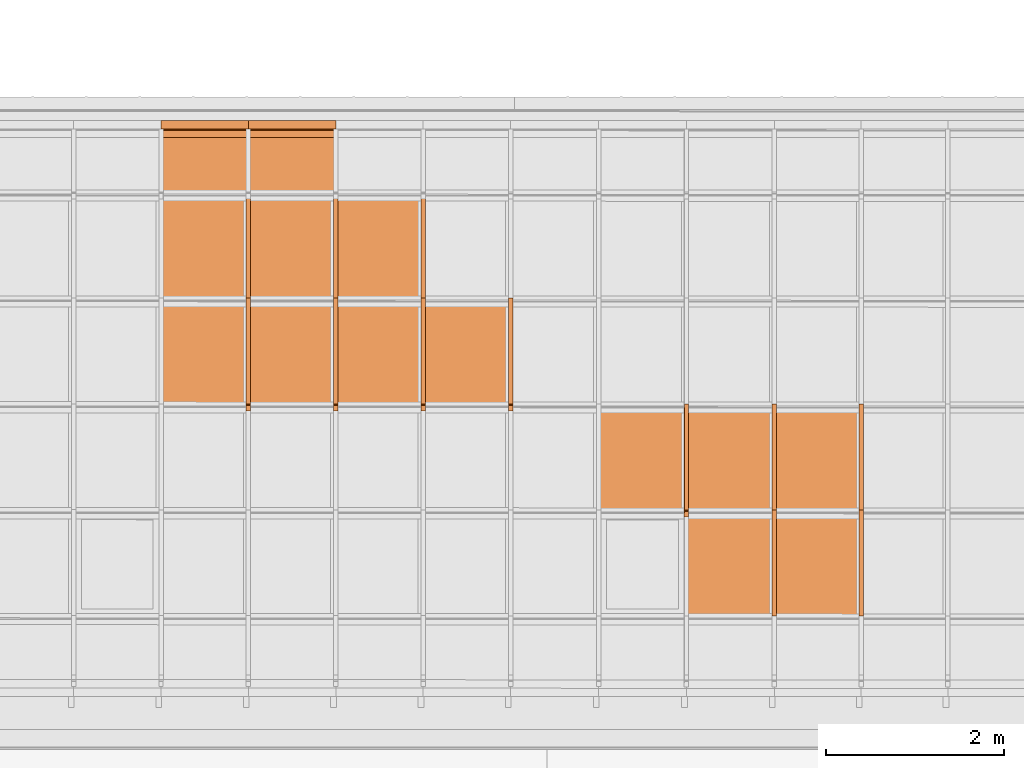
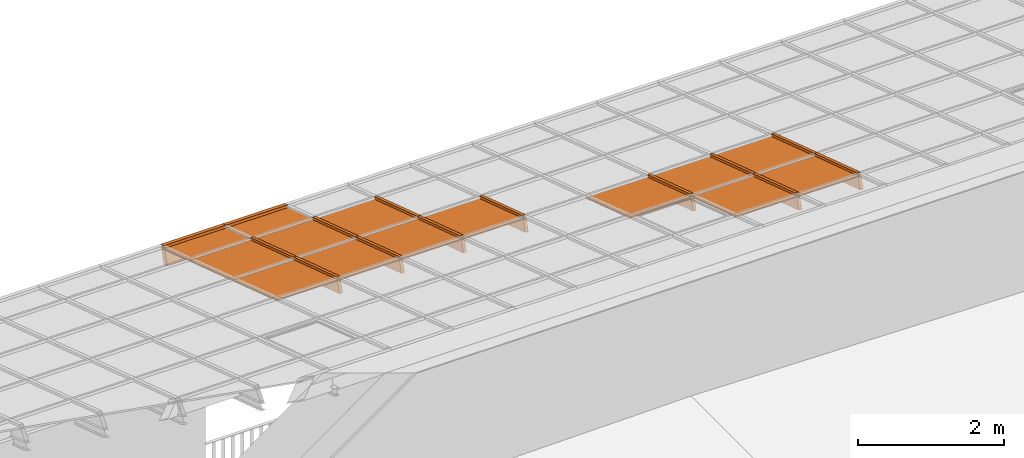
# One storey, part 35 of 47: 28 proxies, 1 element without a shape of its own.
"""IFC2X3 building model written with IfcOpenShell, lengths in millimetres."""

from ifc_helpers import new_model, entity, si_unit, converted_unit, derived_unit, money_unit, direction, frame, origin_with_axes, place, context, subcontext, project, spatial, polyline, outline, extrude, material, material_list, type_object, element, aggregate, save


model = new_model("IFC2X3")

# Units and contexts
model_context = context("Model", 3, precision=1e-05, world=origin_with_axes(), true_north=direction((0.0, 1.0)))
body_context = subcontext(model_context, "Body", "Model", "MODEL_VIEW")
ifc_project = project(units=[si_unit("LENGTHUNIT", "METRE", prefix="MILLI"), si_unit("AREAUNIT", "SQUARE_METRE"), si_unit("VOLUMEUNIT", "CUBIC_METRE"), converted_unit("PLANEANGLEUNIT", "DEGREE", entity("IfcPlaneAngleMeasure", 0.0174532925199), si_unit("PLANEANGLEUNIT", "RADIAN"), dimensions=[0, 0, 0, 0, 0, 0, 0]), si_unit("SOLIDANGLEUNIT", "STERADIAN"), money_unit("EUR"), converted_unit("TIMEUNIT", "Year", entity("IfcTimeMeasure", 31556926.0), si_unit("TIMEUNIT", "SECOND"), dimensions=[0, 0, 1, 0, 0, 0, 0]), si_unit("MASSUNIT", "GRAM", prefix="KILO"), si_unit("THERMODYNAMICTEMPERATUREUNIT", "DEGREE_CELSIUS"), si_unit("LUMINOUSINTENSITYUNIT", "LUMEN"), si_unit("ENERGYUNIT", "JOULE", prefix="MEGA"), derived_unit("THERMALCONDUCTANCEUNIT", [(si_unit("POWERUNIT", "WATT"), 1), (si_unit("LENGTHUNIT", "METRE"), -1), (si_unit("THERMODYNAMICTEMPERATUREUNIT", "KELVIN"), -1)]), derived_unit("SPECIFICHEATCAPACITYUNIT", [(si_unit("ENERGYUNIT", "JOULE"), 1), (si_unit("MASSUNIT", "GRAM", prefix="KILO"), -1), (si_unit("THERMODYNAMICTEMPERATUREUNIT", "KELVIN"), -1)]), derived_unit("MASSDENSITYUNIT", [(si_unit("MASSUNIT", "GRAM", prefix="KILO"), 1), (si_unit("VOLUMEUNIT", "CUBIC_METRE"), -1)])], contexts=[model_context])

# Site, building, storey
site_placement = place(None, origin_with_axes())
site = spatial("IfcSite", under=ifc_project, at=site_placement, Name="Site", CompositionType="ELEMENT")
building_placement = place(site_placement, origin_with_axes())
building = spatial("IfcBuilding", under=site, at=building_placement, Name="Building", CompositionType="ELEMENT")
storey_placement = place(building_placement, frame((0.0, 0.0, 6000.0), z_axis=(0.0, 0.0, 1.0), x_axis=(1.0, 0.0, 0.0)))
storey = spatial("IfcBuildingStorey", under=building, at=storey_placement, Name="KATUSEPLAAN", CompositionType="ELEMENT", Elevation=6000.0)

# Curtain wall, proxies
curtain_wall_type = type_object("IfcCurtainWallType", Name="KK-2", PredefinedType="NOTDEFINED")
curtain_wall_placement = place(storey_placement, frame((71638.1505463, 41358.6055567, 722.550081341), z_axis=(0.0, 0.0, 1.0), x_axis=(1.0, 0.0, 0.0)))
curtain_wall = element("IfcCurtainWall", 1, at=curtain_wall_placement, inside=storey, type_object=curtain_wall_type, Name="Talveaja klaaskatus")
ifc_material_1 = material(Name="Klaas")
building_element_proxy_type_1 = type_object("IfcBuildingElementProxyType", Name="Panel-Main-110", PredefinedType="NOTDEFINED")
proxy_1_placement = place(curtain_wall_placement, frame((7854.49667133, 2255.70523921, 1230.99477412), z_axis=(0.0, 0.0, 1.0), x_axis=(-0.999995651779, 0.0029489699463, 0.0)))
proxy_1 = element("IfcBuildingElementProxy", 2, at=proxy_1_placement, type_object=building_element_proxy_type_1, material=ifc_material_1, Name="Klaas;  Objekti nimi: Built-in CW Panel", context=body_context, shape_type="SweptSolid", body=[
    extrude(outline(polyline([(484.733093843, -631.360496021), (484.747092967, -626.36051317), (489.747094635, -626.374512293), (493.249058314, 623.62057977), (488.249075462, 623.634578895), (488.263093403, 628.634561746), (-484.73309919, 631.360496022), (-484.747098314, 626.360531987), (-489.747081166, 626.374531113), (-493.249063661, -623.620579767), (-488.249061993, -623.634578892), (-488.26309875, -628.634561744), (484.733093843, -631.360496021)])), frame((2.27373675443e-10, -3.12191252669, 9.50019274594), z_axis=(0.0, 0.312191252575, -0.950019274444), x_axis=(1.0, 0.0, 0.0)), (0.0, 0.0, 1.0), 20.0000000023),
])
building_element_proxy_type_2 = type_object("IfcBuildingElementProxyType", Name="Panel-Dist-159", PredefinedType="NOTDEFINED")
proxy_2_placement = place(curtain_wall_placement, frame((979.999584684, 4632.73026932, 456.532339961), z_axis=(0.0, 0.0, 1.0), x_axis=(-0.999995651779, 0.00294896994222, 0.0)))
proxy_2 = element("IfcBuildingElementProxy", 3, at=proxy_2_placement, type_object=building_element_proxy_type_2, material=ifc_material_1, Name="Klaas;  Objekti nimi: Built-in CW Panel", context=body_context, shape_type="SweptSolid", body=[
    extrude(outline(polyline([(488.23307956, -631.370301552), (488.247097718, -626.370316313), (493.247064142, -626.384334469), (496.749044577, 623.610771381), (491.749059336, 623.624770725), (491.763077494, 628.624755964), (-488.233069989, 631.370301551), (-488.247088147, 626.370316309), (-493.247073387, 626.384315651), (-496.749035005, -623.610752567), (-491.749049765, -623.624770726), (-491.763067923, -628.624755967), (488.23307956, -631.370301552)])), frame((0.0, -3.12191252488, 9.50019274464), z_axis=(0.0, 0.312191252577, -0.950019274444), x_axis=(1.0, 0.0, 0.0)), (0.0, 0.0, 1.0), 20.0000000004),
])
building_element_proxy_type_3 = type_object("IfcBuildingElementProxyType", Name="Panel-Main-128", PredefinedType="NOTDEFINED")
proxy_3_placement = place(curtain_wall_placement, frame((1959.99916937, 4632.44860218, 455.675203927), z_axis=(0.0, 0.0, 1.0), x_axis=(-0.999995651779, 0.00294896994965, 0.0)))
proxy_3 = element("IfcBuildingElementProxy", 4, at=proxy_3_placement, type_object=building_element_proxy_type_3, material=ifc_material_1, Name="Klaas;  Objekti nimi: Built-in CW Panel", context=body_context, shape_type="SweptSolid", body=[
    extrude(outline(polyline([(488.233079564, -631.370301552), (488.247097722, -626.370316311), (493.247064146, -626.384334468), (496.749044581, 623.610771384), (491.74905934, 623.624770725), (491.763077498, 628.624755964), (-488.233069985, 631.370301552), (-488.247088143, 626.37031631), (-493.247073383, 626.384315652), (-496.749035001, -623.610752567), (-491.749049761, -623.624770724), (-491.763067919, -628.624755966), (488.233079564, -631.370301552)])), frame((0.0, -3.12191252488, 9.50019274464), z_axis=(0.0, 0.312191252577, -0.950019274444), x_axis=(1.0, 0.0, 0.0)), (0.0, 0.0, 1.0), 20.0000000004),
])
building_element_proxy_type_4 = type_object("IfcBuildingElementProxyType", Name="Panel-Dist-160", PredefinedType="NOTDEFINED")
proxy_4_placement = place(curtain_wall_placement, frame((2939.99875405, 4632.16693504, 454.818067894), z_axis=(0.0, 0.0, 1.0), x_axis=(-0.999995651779, 0.00294896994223, 0.0)))
proxy_4 = element("IfcBuildingElementProxy", 5, at=proxy_4_placement, type_object=building_element_proxy_type_4, material=ifc_material_1, Name="Klaas;  Objekti nimi: Built-in CW Panel", context=body_context, shape_type="SweptSolid", body=[
    extrude(outline(polyline([(488.23307956, -631.370301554), (488.247097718, -626.370316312), (493.247064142, -626.384334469), (496.749044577, 623.610771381), (491.749059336, 623.624770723), (491.763077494, 628.624755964), (-488.233069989, 631.37030155), (-488.247088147, 626.37031631), (-493.247073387, 626.38431565), (-496.749035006, -623.610752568), (-491.749049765, -623.624770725), (-491.763067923, -628.624755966), (488.23307956, -631.370301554)])), frame((0.0, -3.12191252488, 9.50019274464), z_axis=(0.0, 0.312191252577, -0.950019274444), x_axis=(1.0, 0.0, 0.0)), (0.0, 0.0, 1.0), 20.0000000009),
])
building_element_proxy_type_5 = type_object("IfcBuildingElementProxyType", Name="Panel-Main-139", PredefinedType="NOTDEFINED")
proxy_5_placement = place(curtain_wall_placement, frame((979.999584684, 3445.205673, 846.769874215), z_axis=(0.0, 0.0, 1.0), x_axis=(-0.999995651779, 0.00294896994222, 0.0)))
proxy_5 = element("IfcBuildingElementProxy", 6, at=proxy_5_placement, type_object=building_element_proxy_type_5, material=ifc_material_1, Name="Klaas;  Objekti nimi: Built-in CW Panel", context=body_context, shape_type="SweptSolid", body=[
    extrude(outline(polyline([(488.23307956, -631.370301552), (488.247097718, -626.37031631), (493.247064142, -626.384334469), (496.749044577, 623.610771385), (491.749059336, 623.624770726), (491.763077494, 628.624755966), (-488.233069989, 631.370301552), (-488.247088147, 626.370316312), (-493.247073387, 626.38431565), (-496.749035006, -623.610752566), (-491.749049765, -623.624770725), (-491.763067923, -628.624755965), (488.23307956, -631.370301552)])), frame((0.0, -3.12191252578, 9.50019274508), z_axis=(0.0, 0.312191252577, -0.950019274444), x_axis=(1.0, 0.0, 0.0)), (0.0, 0.0, 1.0), 20.0000000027),
])
building_element_proxy_type_6 = type_object("IfcBuildingElementProxyType", Name="Panel-Dist-171", PredefinedType="NOTDEFINED")
proxy_6_placement = place(curtain_wall_placement, frame((1959.99916937, 3444.92400586, 845.912738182), z_axis=(0.0, 0.0, 1.0), x_axis=(-0.999995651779, 0.00294896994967, 0.0)))
proxy_6 = element("IfcBuildingElementProxy", 7, at=proxy_6_placement, type_object=building_element_proxy_type_6, material=ifc_material_1, Name="Klaas;  Objekti nimi: Built-in CW Panel", context=body_context, shape_type="SweptSolid", body=[
    extrude(outline(polyline([(488.233079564, -631.370301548), (488.247097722, -626.370316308), (493.247064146, -626.384334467), (496.749044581, 623.610771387), (491.74905934, 623.624770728), (491.763077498, 628.624755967), (-488.233069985, 631.370301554), (-488.247088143, 626.370316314), (-493.247073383, 626.384315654), (-496.749035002, -623.610752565), (-491.749049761, -623.624770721), (-491.763067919, -628.624755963), (488.233079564, -631.370301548)])), frame((0.0, -3.12191252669, 9.50019274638), z_axis=(0.0, 0.312191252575, -0.950019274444), x_axis=(1.0, 0.0, 0.0)), (0.0, 0.0, 1.0), 20.0000000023),
])
building_element_proxy_type_7 = type_object("IfcBuildingElementProxyType", Name="Panel-Main-140", PredefinedType="NOTDEFINED")
proxy_7_placement = place(curtain_wall_placement, frame((2939.99875405, 3444.64233873, 845.055602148), z_axis=(0.0, 0.0, 1.0), x_axis=(-0.999995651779, 0.00294896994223, 0.0)))
proxy_7 = element("IfcBuildingElementProxy", 8, at=proxy_7_placement, type_object=building_element_proxy_type_7, material=ifc_material_1, Name="Klaas;  Objekti nimi: Built-in CW Panel", context=body_context, shape_type="SweptSolid", body=[
    extrude(outline(polyline([(488.23307956, -631.370301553), (488.247097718, -626.370316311), (493.247064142, -626.384334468), (496.749044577, 623.610771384), (491.749059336, 623.624770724), (491.763077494, 628.624755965), (-488.233069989, 631.370301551), (-488.247088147, 626.370316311), (-493.247073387, 626.384315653), (-496.749035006, -623.610752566), (-491.749049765, -623.624770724), (-491.763067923, -628.624755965), (488.23307956, -631.370301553)])), frame((0.0, -3.12191252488, 9.50019274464), z_axis=(0.0, 0.312191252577, -0.950019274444), x_axis=(1.0, 0.0, 0.0)), (0.0, 0.0, 1.0), 20.0000000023),
])
building_element_proxy_type_8 = type_object("IfcBuildingElementProxyType", Name="Panel-Dist-172", PredefinedType="NOTDEFINED")
proxy_8_placement = place(curtain_wall_placement, frame((3919.99833874, 3444.36067159, 844.198466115), z_axis=(0.0, 0.0, 1.0), x_axis=(-0.999995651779, 0.00294896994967, 0.0)))
proxy_8 = element("IfcBuildingElementProxy", 9, at=proxy_8_placement, type_object=building_element_proxy_type_8, material=ifc_material_1, Name="Klaas;  Objekti nimi: Built-in CW Panel", context=body_context, shape_type="SweptSolid", body=[
    extrude(outline(polyline([(488.233079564, -631.37030155), (488.247097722, -626.370316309), (493.247064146, -626.384334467), (496.749044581, 623.610771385), (491.74905934, 623.624770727), (491.763077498, 628.624755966), (-488.233069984, 631.370301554), (-488.247088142, 626.370316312), (-493.247073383, 626.384315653), (-496.749035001, -623.610752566), (-491.749049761, -623.624770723), (-491.763067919, -628.624755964), (488.233079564, -631.37030155)])), frame((1.13686837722e-10, -3.12191252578, 9.50019274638), z_axis=(0.0, 0.312191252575, -0.950019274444), x_axis=(1.0, 0.0, 0.0)), (0.0, 0.0, 1.0), 20.0000000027),
])
building_element_proxy_type_9 = type_object("IfcBuildingElementProxyType", Name="Panel-Dist-152", PredefinedType="NOTDEFINED")
proxy_9_placement = place(curtain_wall_placement, frame((6874.99708643, 2255.98676263, 1231.85147284), z_axis=(0.0, 0.0, 1.0), x_axis=(-0.999995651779, 0.00294896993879, 0.0)))
proxy_9 = element("IfcBuildingElementProxy", 10, at=proxy_9_placement, type_object=building_element_proxy_type_9, material=ifc_material_1, Name="Klaas;  Objekti nimi: Built-in CW Panel", context=body_context, shape_type="SweptSolid", body=[
    extrude(outline(polyline([(491.23306732, -631.378706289), (491.247085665, -626.378729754), (496.247062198, -626.392729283), (499.749032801, 623.602363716), (494.749056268, 623.616363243), (494.763055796, 628.616358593), (-491.233080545, 631.37870629), (-491.247080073, 626.378710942), (-496.247075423, 626.392729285), (-499.749046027, -623.602344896), (-494.749050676, -623.61636324), (-494.763069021, -628.616339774), (491.23306732, -631.378706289)])), frame((0.0, -3.12191252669, 9.50019274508), z_axis=(0.0, 0.312191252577, -0.950019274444), x_axis=(1.0, 0.0, 0.0)), (0.0, 0.0, 1.0), 20.0000000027),
])
building_element_proxy_type_10 = type_object("IfcBuildingElementProxyType", Name="Panel-Main-161", PredefinedType="NOTDEFINED")
proxy_10_placement = place(curtain_wall_placement, frame((6874.99708643, 1068.46216631, 1622.0890071), z_axis=(0.0, 0.0, 1.0), x_axis=(-0.999995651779, 0.00294896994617, 0.0)))
proxy_10 = element("IfcBuildingElementProxy", 11, at=proxy_10_placement, type_object=building_element_proxy_type_10, material=ifc_material_1, Name="Klaas;  Objekti nimi: Built-in CW Panel", context=body_context, shape_type="SweptSolid", body=[
    extrude(outline(polyline([(491.233067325, -631.378706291), (491.247085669, -626.378729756), (496.247062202, -626.392729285), (499.749032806, 623.602363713), (494.749056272, 623.616363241), (494.7630558, 628.616358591), (-491.233080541, 631.378706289), (-491.247080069, 626.37871094), (-496.247075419, 626.392729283), (-499.749046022, -623.602344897), (-494.749050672, -623.61636324), (-494.763069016, -628.616339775), (491.233067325, -631.378706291)])), frame((1.13686837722e-10, -3.12191252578, 9.50019274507), z_axis=(0.0, 0.312191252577, -0.950019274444), x_axis=(1.0, 0.0, 0.0)), (0.0, 0.0, 1.0), 20.0000000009),
])
building_element_proxy_type_11 = type_object("IfcBuildingElementProxyType", Name="Panel-Main-182", PredefinedType="NOTDEFINED")
proxy_11_placement = place(curtain_wall_placement, frame((5888.99750429, 2256.27015426, 1232.71385665), z_axis=(0.0, 0.0, 1.0), x_axis=(-0.999995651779, 0.00294896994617, 0.0)))
proxy_11 = element("IfcBuildingElementProxy", 12, at=proxy_11_placement, type_object=building_element_proxy_type_11, material=ifc_material_1, Name="Klaas;  Objekti nimi: Built-in CW Panel", context=body_context, shape_type="SweptSolid", body=[
    extrude(outline(polyline([(491.233067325, -631.378706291), (491.247085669, -626.378729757), (496.247062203, -626.392729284), (499.749032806, 623.602363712), (494.749056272, 623.616363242), (494.7630558, 628.61635859), (-491.233080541, 631.378706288), (-491.247080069, 626.378710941), (-496.247075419, 626.392729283), (-499.749046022, -623.602344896), (-494.749050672, -623.616363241), (-494.763069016, -628.616339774), (491.233067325, -631.378706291)])), frame((1.13686837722e-10, -3.12191252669, 9.50019274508), z_axis=(0.0, 0.312191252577, -0.950019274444), x_axis=(1.0, 0.0, 0.0)), (0.0, 0.0, 1.0), 20.0000000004),
])
building_element_proxy_type_12 = type_object("IfcBuildingElementProxyType", Name="Panel-Main-160", PredefinedType="NOTDEFINED")
proxy_12_placement = place(curtain_wall_placement, frame((7854.49667133, 1068.18064289, 1621.23230838), z_axis=(0.0, 0.0, 1.0), x_axis=(-0.999995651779, 0.00294896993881, 0.0)))
proxy_12 = element("IfcBuildingElementProxy", 13, at=proxy_12_placement, type_object=building_element_proxy_type_12, material=ifc_material_1, Name="Klaas;  Objekti nimi: Built-in CW Panel", context=body_context, shape_type="SweptSolid", body=[
    extrude(outline(polyline([(484.733112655, -631.360496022), (484.747111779, -626.360513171), (489.747075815, -626.374531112), (493.24905831, 623.620579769), (488.249075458, 623.634578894), (488.263093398, 628.634561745), (-484.733080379, 631.360496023), (-484.747098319, 626.360513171), (-489.747081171, 626.374512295), (-493.24904485, -623.620579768), (-488.249061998, -623.634578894), (-488.263079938, -628.634561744), (484.733112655, -631.360496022)])), frame((0.0, -3.12191252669, 9.50019274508), z_axis=(0.0, 0.312191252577, -0.950019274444), x_axis=(1.0, 0.0, 0.0)), (0.0, 0.0, 1.0), 20.0000000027),
])
building_element_proxy_type_13 = type_object("IfcBuildingElementProxyType", Name="Panel-Main-151", PredefinedType="NOTDEFINED")
proxy_13_placement = place(curtain_wall_placement, frame((979.999584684, 5604.00142207, 137.358774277), z_axis=(0.0, 0.0, 1.0), x_axis=(-0.999995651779, 0.00294896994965, 0.0)))
proxy_13 = element("IfcBuildingElementProxy", 14, at=proxy_13_placement, type_object=building_element_proxy_type_13, material=ifc_material_1, Name="Klaas;  Objekti nimi: Built-in CW Panel", context=body_context, shape_type="SweptSolid", body=[
    extrude(outline(polyline([(488.870818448, -403.740707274), (488.884820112, -398.740723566), (493.884789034, -398.754740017), (496.111319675, 395.981176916), (491.111335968, 395.995178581), (491.055314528, 375.995258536), (-488.940856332, 378.740796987), (-488.884805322, 398.740731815), (-493.884789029, 398.754733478), (-496.11131967, -395.981168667), (-491.111335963, -395.995170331), (-491.125337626, -400.995154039), (488.870818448, -403.740707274)])), frame((1.13686837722e-10, -3.1219125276, 9.50019274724), z_axis=(0.0, 0.312191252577, -0.950019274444), x_axis=(1.0, 0.0, 0.0)), (0.0, 0.0, 1.0), 20.0000000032),
])
building_element_proxy_type_14 = type_object("IfcBuildingElementProxyType", Name="Panel-Main-073", PredefinedType="NOTDEFINED")
proxy_14_placement = place(curtain_wall_placement, frame((1959.99916937, 5603.71975493, 136.501638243), z_axis=(0.0, 0.0, 1.0), x_axis=(-0.999995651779, 0.00294896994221, 0.0)))
proxy_14 = element("IfcBuildingElementProxy", 15, at=proxy_14_placement, type_object=building_element_proxy_type_14, material=ifc_material_1, Name="Klaas;  Objekti nimi: Built-in CW Panel", context=body_context, shape_type="SweptSolid", body=[
    extrude(outline(polyline([(488.870818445, -403.740707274), (488.884820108, -398.740723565), (493.88478903, -398.754740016), (496.111319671, 395.981176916), (491.111335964, 395.995178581), (491.055314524, 375.995258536), (-488.940856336, 378.740796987), (-488.884805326, 398.740731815), (-493.884789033, 398.754733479), (-496.111319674, -395.981168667), (-491.111335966, -395.995170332), (-491.12533763, -400.995154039), (488.870818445, -403.740707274)])), frame((1.13686837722e-10, -3.12191252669, 9.5001927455), z_axis=(0.0, 0.312191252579, -0.950019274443), x_axis=(1.0, 0.0, 0.0)), (0.0, 0.0, 1.0), 20.0000000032),
])
ifc_material_2 = material(Name="Alumiinium (1)")
ifc_material_list = material_list([ifc_material_2, ifc_material_2])
building_element_proxy_type_15 = type_object("IfcBuildingElementProxyType", Name="Frame-Mll-600", PredefinedType="NOTDEFINED")
proxy_15_placement = place(curtain_wall_placement, frame((8340.99646516, 2849.32770975, 1035.45050018), z_axis=(0.0, -0.950019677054, 0.312190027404), x_axis=(-0.999999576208, 0.000287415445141, 0.000874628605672)))
proxy_15 = element("IfcBuildingElementProxy", 16, at=proxy_15_placement, type_object=building_element_proxy_type_15, material=ifc_material_list, Name="Alumiinium (1);  Objekti nimi: Frame 22", context=body_context, shape_type="SweptSolid", body=[
    extrude(outline(polyline([(25.0091958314, 9.97697969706), (25.1841179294, 199.976899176), (-24.8158608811, 200.022931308), (-24.9907829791, 10.0230118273), (25.0091958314, 9.97697969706)])), frame((0.0, 0.0, 0.0), z_axis=(0.0, 0.0, 1.0), x_axis=(0.999999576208, 0.000920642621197, 0.0)), (0.0, 0.0, 1.0), 1250.0),
    extrude(outline(polyline([(-25.0091958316, -9.9769796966), (-25.0460215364, -49.9769627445), (24.953957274, -50.0229948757), (24.9907829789, -10.0230118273), (-25.0091958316, -9.9769796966)])), frame((0.0, 0.0, 0.0), z_axis=(0.0, 0.0, 1.0), x_axis=(0.999999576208, 0.000920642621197, 0.0)), (0.0, 0.0, 1.0), 1250.0),
])
building_element_proxy_type_16 = type_object("IfcBuildingElementProxyType", Name="Frame-Mll-225", PredefinedType="NOTDEFINED")
proxy_16_placement = place(curtain_wall_placement, frame((1469.99937703, 5226.35173391, 260.985004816), z_axis=(0.0, -0.950019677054, 0.312190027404), x_axis=(-0.999999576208, 0.000287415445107, 0.00087462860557)))
proxy_16 = element("IfcBuildingElementProxy", 17, at=proxy_16_placement, type_object=building_element_proxy_type_16, material=ifc_material_list, Name="Alumiinium (1);  Objekti nimi: Frame 22", context=body_context, shape_type="SweptSolid", body=[
    extrude(outline(polyline([(25.0091958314, 9.97697969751), (25.1841179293, 199.976899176), (-24.8158608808, 200.022931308), (-24.990782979, 10.0230118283), (25.0091958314, 9.97697969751)])), frame((0.0, 0.0, 0.0), z_axis=(0.0, 0.0, 1.0), x_axis=(0.999999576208, 0.00092064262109, 0.0)), (0.0, 0.0, 1.0), 1250.0),
    extrude(outline(polyline([(-25.0091958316, -9.97697969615), (-25.0460215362, -49.976962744), (24.9539572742, -50.0229948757), (24.9907829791, -10.0230118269), (-25.0091958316, -9.97697969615)])), frame((0.0, 4.54747350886e-10, -9.09494701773e-10), z_axis=(0.0, 0.0, 1.0), x_axis=(0.999999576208, 0.00092064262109, 0.0)), (0.0, 0.0, 1.0), 1250.0),
])
building_element_proxy_type_17 = type_object("IfcBuildingElementProxyType", Name="Frame-Mll-226", PredefinedType="NOTDEFINED")
proxy_17_placement = place(curtain_wall_placement, frame((2449.99896171, 5226.07006677, 260.127868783), z_axis=(0.0, -0.950019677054, 0.312190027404), x_axis=(-0.999999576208, 0.000287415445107, 0.00087462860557)))
proxy_17 = element("IfcBuildingElementProxy", 18, at=proxy_17_placement, type_object=building_element_proxy_type_17, material=ifc_material_list, Name="Alumiinium (1);  Objekti nimi: Frame 22", context=body_context, shape_type="SweptSolid", body=[
    extrude(outline(polyline([(25.0091958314, 9.97697969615), (25.1841179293, 199.976899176), (-24.8158608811, 200.022931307), (-24.9907829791, 10.0230118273), (25.0091958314, 9.97697969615)])), frame((0.0, 0.0, 0.0), z_axis=(0.0, 0.0, 1.0), x_axis=(0.999999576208, 0.00092064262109, 0.0)), (0.0, 0.0, 1.0), 1250.0),
    extrude(outline(polyline([(-25.0091958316, -9.9769796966), (-25.0460215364, -49.9769627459), (24.9539572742, -50.0229948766), (24.990782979, -10.0230118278), (-25.0091958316, -9.9769796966)])), frame((0.0, 0.0, 0.0), z_axis=(0.0, 0.0, 1.0), x_axis=(0.999999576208, 0.00092064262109, 0.0)), (0.0, 0.0, 1.0), 1250.0),
])
building_element_proxy_type_18 = type_object("IfcBuildingElementProxyType", Name="Frame-Mll-227", PredefinedType="NOTDEFINED")
proxy_18_placement = place(curtain_wall_placement, frame((3429.9985464, 5225.78839964, 259.27073275), z_axis=(0.0, -0.950019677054, 0.312190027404), x_axis=(-0.999999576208, 0.000287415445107, 0.00087462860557)))
proxy_18 = element("IfcBuildingElementProxy", 19, at=proxy_18_placement, type_object=building_element_proxy_type_18, material=ifc_material_list, Name="Alumiinium (1);  Objekti nimi: Frame 22", context=body_context, shape_type="SweptSolid", body=[
    extrude(outline(polyline([(25.0091958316, 9.9769796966), (25.1841179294, 199.976899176), (-24.8158608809, 200.022931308), (-24.990782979, 10.0230118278), (25.0091958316, 9.9769796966)])), frame((0.0, 0.0, -2.72848410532e-09), z_axis=(0.0, 0.0, 1.0), x_axis=(0.999999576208, 0.00092064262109, 0.0)), (0.0, 0.0, 1.0), 1250.0),
    extrude(outline(polyline([(-25.0091958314, -9.9769796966), (-25.0460215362, -49.9769627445), (24.9539572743, -50.0229948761), (24.990782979, -10.0230118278), (-25.0091958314, -9.9769796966)])), frame((0.0, 0.0, -2.72848410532e-09), z_axis=(0.0, 0.0, 1.0), x_axis=(0.999999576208, 0.00092064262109, 0.0)), (0.0, 0.0, 1.0), 1250.0),
])
building_element_proxy_type_19 = type_object("IfcBuildingElementProxyType", Name="Frame-Mll-248", PredefinedType="NOTDEFINED")
proxy_19_placement = place(curtain_wall_placement, frame((1469.99937703, 4038.82713759, 651.222539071), z_axis=(0.0, -0.950019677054, 0.312190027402), x_axis=(-0.999999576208, 0.000287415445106, 0.00087462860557)))
proxy_19 = element("IfcBuildingElementProxy", 20, at=proxy_19_placement, type_object=building_element_proxy_type_19, material=ifc_material_list, Name="Alumiinium (1);  Objekti nimi: Frame 22", context=body_context, shape_type="SweptSolid", body=[
    extrude(outline(polyline([(25.0091958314, 9.9769796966), (25.1841179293, 199.976899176), (-24.8158608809, 200.022931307), (-24.990782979, 10.0230118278), (25.0091958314, 9.9769796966)])), frame((0.0, 0.0, -1.81898940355e-09), z_axis=(0.0, 0.0, 1.0), x_axis=(0.999999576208, 0.00092064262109, 0.0)), (0.0, 0.0, 1.0), 1250.00000001),
    extrude(outline(polyline([(-25.0091958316, -9.9769796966), (-25.0460215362, -49.9769627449), (24.9539572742, -50.0229948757), (24.990782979, -10.0230118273), (-25.0091958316, -9.9769796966)])), frame((0.0, 0.0, -9.09494701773e-10), z_axis=(0.0, 0.0, 1.0), x_axis=(0.999999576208, 0.00092064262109, 0.0)), (0.0, 0.0, 1.0), 1250.00000001),
])
building_element_proxy_type_20 = type_object("IfcBuildingElementProxyType", Name="Frame-Mll-249", PredefinedType="NOTDEFINED")
proxy_20_placement = place(curtain_wall_placement, frame((2449.99896171, 4038.54547045, 650.365403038), z_axis=(0.0, -0.950019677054, 0.312190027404), x_axis=(-0.999999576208, 0.000287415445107, 0.00087462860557)))
proxy_20 = element("IfcBuildingElementProxy", 21, at=proxy_20_placement, type_object=building_element_proxy_type_20, material=ifc_material_list, Name="Alumiinium (1);  Objekti nimi: Frame 22", context=body_context, shape_type="SweptSolid", body=[
    extrude(outline(polyline([(25.0091958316, 9.9769796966), (25.1841179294, 199.976899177), (-24.8158608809, 200.022931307), (-24.990782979, 10.0230118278), (25.0091958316, 9.9769796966)])), frame((0.0, 0.0, 0.0), z_axis=(0.0, 0.0, 1.0), x_axis=(0.999999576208, 0.00092064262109, 0.0)), (0.0, 0.0, 1.0), 1250.0),
    extrude(outline(polyline([(-25.0091958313, -9.9769796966), (-25.0460215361, -49.9769627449), (24.9539572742, -50.0229948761), (24.9907829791, -10.0230118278), (-25.0091958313, -9.9769796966)])), frame((0.0, 0.0, 0.0), z_axis=(0.0, 0.0, 1.0), x_axis=(0.999999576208, 0.00092064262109, 0.0)), (0.0, 0.0, 1.0), 1250.0),
])
building_element_proxy_type_21 = type_object("IfcBuildingElementProxyType", Name="Frame-Mll-250", PredefinedType="NOTDEFINED")
proxy_21_placement = place(curtain_wall_placement, frame((3429.9985464, 4038.26380332, 649.508267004), z_axis=(0.0, -0.950019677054, 0.312190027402), x_axis=(-0.999999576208, 0.000287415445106, 0.00087462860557)))
proxy_21 = element("IfcBuildingElementProxy", 22, at=proxy_21_placement, type_object=building_element_proxy_type_21, material=ifc_material_list, Name="Alumiinium (1);  Objekti nimi: Frame 22", context=body_context, shape_type="SweptSolid", body=[
    extrude(outline(polyline([(25.0091958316, 9.97697969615), (25.1841179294, 199.976899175), (-24.8158608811, 200.022931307), (-24.990782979, 10.0230118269), (25.0091958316, 9.97697969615)])), frame((0.0, 0.0, -9.09494701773e-10), z_axis=(0.0, 0.0, 1.0), x_axis=(0.999999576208, 0.00092064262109, 0.0)), (0.0, 0.0, 1.0), 1250.00000001),
    extrude(outline(polyline([(-25.0091958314, -9.97697969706), (-25.0460215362, -49.9769627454), (24.9539572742, -50.0229948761), (24.990782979, -10.0230118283), (-25.0091958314, -9.97697969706)])), frame((0.0, 0.0, 0.0), z_axis=(0.0, 0.0, 1.0), x_axis=(0.999999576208, 0.00092064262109, 0.0)), (0.0, 0.0, 1.0), 1250.00000001),
])
building_element_proxy_type_22 = type_object("IfcBuildingElementProxyType", Name="Frame-Mll-251", PredefinedType="NOTDEFINED")
proxy_22_placement = place(curtain_wall_placement, frame((4409.99813108, 4037.98213618, 648.651130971), z_axis=(0.0, -0.950019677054, 0.312190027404), x_axis=(-0.999999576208, 0.000287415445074, 0.000874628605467)))
proxy_22 = element("IfcBuildingElementProxy", 23, at=proxy_22_placement, type_object=building_element_proxy_type_22, material=ifc_material_list, Name="Alumiinium (1);  Objekti nimi: Frame 22", context=body_context, shape_type="SweptSolid", body=[
    extrude(outline(polyline([(25.0091958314, 9.9769796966), (25.1841179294, 199.976899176), (-24.8158608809, 200.022931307), (-24.990782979, 10.0230118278), (25.0091958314, 9.9769796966)])), frame((0.0, 0.0, -2.72848410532e-09), z_axis=(0.0, 0.0, 1.0), x_axis=(0.999999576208, 0.000920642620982, 0.0)), (0.0, 0.0, 1.0), 1250.0),
    extrude(outline(polyline([(-25.0091958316, -9.97697969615), (-25.0460215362, -49.9769627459), (24.9539572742, -50.0229948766), (24.9907829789, -10.0230118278), (-25.0091958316, -9.97697969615)])), frame((0.0, -4.54747350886e-10, -9.09494701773e-10), z_axis=(0.0, 0.0, 1.0), x_axis=(0.999999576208, 0.000920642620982, 0.0)), (0.0, 0.0, 1.0), 1250.0),
])
building_element_proxy_type_23 = type_object("IfcBuildingElementProxyType", Name="Frame-Mll-599", PredefinedType="NOTDEFINED")
proxy_23_placement = place(curtain_wall_placement, frame((7367.9968775, 2849.60736498, 1036.30151381), z_axis=(0.0, -0.950019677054, 0.312190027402), x_axis=(-0.999999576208, 0.000287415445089, 0.000874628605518)))
proxy_23 = element("IfcBuildingElementProxy", 24, at=proxy_23_placement, type_object=building_element_proxy_type_23, material=ifc_material_list, Name="Alumiinium (1);  Objekti nimi: Frame 22", context=body_context, shape_type="SweptSolid", body=[
    extrude(outline(polyline([(25.0091958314, 9.97697969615), (25.1841179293, 199.976899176), (-24.8158608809, 200.022931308), (-24.990782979, 10.0230118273), (25.0091958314, 9.97697969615)])), frame((0.0, -4.54747350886e-10, -9.09494701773e-10), z_axis=(0.0, 0.0, 1.0), x_axis=(0.999999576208, 0.000920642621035, 0.0)), (0.0, 0.0, 1.0), 1250.00000001),
    extrude(outline(polyline([(-25.0091958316, -9.9769796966), (-25.0460215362, -49.9769627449), (24.9539572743, -50.0229948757), (24.990782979, -10.0230118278), (-25.0091958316, -9.9769796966)])), frame((0.0, 0.0, 0.0), z_axis=(0.0, 0.0, 1.0), x_axis=(0.999999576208, 0.000920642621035, 0.0)), (0.0, 0.0, 1.0), 1250.00000001),
])
building_element_proxy_type_24 = type_object("IfcBuildingElementProxyType", Name="Frame-Mll-598", PredefinedType="NOTDEFINED")
proxy_24_placement = place(curtain_wall_placement, frame((6381.99729536, 2849.8907566, 1037.16389762), z_axis=(0.0, -0.950019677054, 0.312190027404), x_axis=(-0.999999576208, 0.000287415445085, 0.000874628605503)))
proxy_24 = element("IfcBuildingElementProxy", 25, at=proxy_24_placement, type_object=building_element_proxy_type_24, material=ifc_material_list, Name="Alumiinium (1);  Objekti nimi: Frame 22", context=body_context, shape_type="SweptSolid", body=[
    extrude(outline(polyline([(25.0091958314, 9.9769796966), (25.1841179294, 199.976899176), (-24.8158608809, 200.022931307), (-24.990782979, 10.0230118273), (25.0091958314, 9.9769796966)])), frame((0.0, -4.54747350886e-10, -9.09494701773e-10), z_axis=(0.0, 0.0, 1.0), x_axis=(0.999999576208, 0.000920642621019, 0.0)), (0.0, 0.0, 1.0), 1250.0),
    extrude(outline(polyline([(-25.0091958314, -9.9769796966), (-25.0460215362, -49.9769627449), (24.9539572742, -50.0229948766), (24.990782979, -10.0230118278), (-25.0091958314, -9.9769796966)])), frame((0.0, -4.54747350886e-10, -9.09494701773e-10), z_axis=(0.0, 0.0, 1.0), x_axis=(0.999999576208, 0.000920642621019, 0.0)), (0.0, 0.0, 1.0), 1250.0),
])
building_element_proxy_type_25 = type_object("IfcBuildingElementProxyType", Name="Frame-Mll-066", PredefinedType="NOTDEFINED")
proxy_25_placement = place(curtain_wall_placement, frame((7367.9968775, 1662.08276866, 1426.53904807), z_axis=(0.0, -0.950019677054, 0.312190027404), x_axis=(-0.999999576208, 0.00028741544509, 0.000874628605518)))
proxy_25 = element("IfcBuildingElementProxy", 26, at=proxy_25_placement, type_object=building_element_proxy_type_25, material=ifc_material_list, Name="Alumiinium (1);  Objekti nimi: Frame 22", context=body_context, shape_type="SweptSolid", body=[
    extrude(outline(polyline([(25.0091958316, 9.97697969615), (25.1841179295, 199.976899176), (-24.8158608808, 200.022931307), (-24.9907829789, 10.0230118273), (25.0091958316, 9.97697969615)])), frame((0.0, 4.54747350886e-10, -1.81898940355e-09), z_axis=(0.0, 0.0, 1.0), x_axis=(0.999999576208, 0.000920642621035, 0.0)), (0.0, 0.0, 1.0), 1250.0),
    extrude(outline(polyline([(-25.0091958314, -9.9769796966), (-25.046021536, -49.9769627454), (24.9539572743, -50.0229948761), (24.9907829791, -10.0230118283), (-25.0091958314, -9.9769796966)])), frame((0.0, 4.54747350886e-10, -1.81898940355e-09), z_axis=(0.0, 0.0, 1.0), x_axis=(0.999999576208, 0.000920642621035, 0.0)), (0.0, 0.0, 1.0), 1250.0),
])
building_element_proxy_type_26 = type_object("IfcBuildingElementProxyType", Name="Frame-Mll-067", PredefinedType="NOTDEFINED")
proxy_26_placement = place(curtain_wall_placement, frame((8340.99646516, 1661.80311344, 1425.68803443), z_axis=(0.0, -0.950019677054, 0.312190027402), x_axis=(-0.999999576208, 0.000287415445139, 0.000874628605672)))
proxy_26 = element("IfcBuildingElementProxy", 27, at=proxy_26_placement, type_object=building_element_proxy_type_26, material=ifc_material_list, Name="Alumiinium (1);  Objekti nimi: Frame 22", context=body_context, shape_type="SweptSolid", body=[
    extrude(outline(polyline([(25.0091958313, 9.97697969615), (25.1841179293, 199.976899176), (-24.8158608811, 200.022931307), (-24.9907829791, 10.0230118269), (25.0091958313, 9.97697969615)])), frame((0.0, 0.0, -1.81898940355e-09), z_axis=(0.0, 0.0, 1.0), x_axis=(0.999999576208, 0.000920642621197, 0.0)), (0.0, 0.0, 1.0), 1250.00000001),
    extrude(outline(polyline([(-25.0091958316, -9.97697969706), (-25.0460215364, -49.9769627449), (24.953957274, -50.0229948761), (24.9907829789, -10.0230118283), (-25.0091958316, -9.97697969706)])), frame((0.0, 0.0, -1.81898940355e-09), z_axis=(0.0, 0.0, 1.0), x_axis=(0.999999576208, 0.000920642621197, 0.0)), (0.0, 0.0, 1.0), 1250.00000001),
])
building_element_proxy_type_27 = type_object("IfcBuildingElementProxyType", Name="Frame-Bnd-618", PredefinedType="NOTDEFINED")
proxy_27_placement = place(curtain_wall_placement, frame((1469.99937703, 5981.3694431, 12.8754077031), z_axis=(0.999999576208, -0.000287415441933, -0.000874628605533), x_axis=(0.0, -0.950019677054, 0.312190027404)))
proxy_27 = element("IfcBuildingElementProxy", 28, at=proxy_27_placement, type_object=building_element_proxy_type_27, material=ifc_material_2, Name="Alumiinium (1);  Objekti nimi: Built-in Frame", context=body_context, shape_type="SweptSolid", body=[
    extrude(outline(polyline([(22.1222942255, 3.25639344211), (50.6228833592, -6.10931096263), (125.548518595, 221.895402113), (30.5465548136, 253.114416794), (-63.1104892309, -31.8914745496), (31.8914745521, -63.1104892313), (44.3790804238, -25.1097037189), (15.8784912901, -15.7439993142), (22.1222942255, 3.25639344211)])), frame((0.0, 0.0, -3.41060513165e-10), z_axis=(0.0, 0.0, 1.0), x_axis=(0.950019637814, 0.312190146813, 0.0)), (0.0, 0.0, 1.0), 980.0),
])
building_element_proxy_type_28 = type_object("IfcBuildingElementProxyType", Name="Frame-Bnd-617", PredefinedType="NOTDEFINED")
proxy_28_placement = place(curtain_wall_placement, frame((489.999792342, 5981.65111024, 13.7325437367), z_axis=(0.999999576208, -0.00028741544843, -0.000874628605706), x_axis=(0.0, -0.950019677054, 0.312190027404)))
proxy_28 = element("IfcBuildingElementProxy", 29, at=proxy_28_placement, type_object=building_element_proxy_type_28, material=ifc_material_2, Name="Alumiinium (1);  Objekti nimi: Built-in Frame", context=body_context, shape_type="SweptSolid", body=[
    extrude(outline(polyline([(22.1222942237, 3.25639344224), (50.6228833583, -6.10931096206), (125.548518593, 221.895402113), (30.5465548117, 253.114416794), (-63.1104892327, -31.8914745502), (31.8914745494, -63.1104892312), (44.3790804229, -25.1097037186), (15.8784912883, -15.7439993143), (22.1222942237, 3.25639344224)])), frame((0.0, 0.0, -5.68434188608e-10), z_axis=(0.0, 0.0, 1.0), x_axis=(0.950019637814, 0.312190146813, 0.0)), (0.0, 0.0, 1.0), 980.000000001),
])
aggregate(curtain_wall, [proxy_1, proxy_2, proxy_3, proxy_4, proxy_5, proxy_6, proxy_7, proxy_8, proxy_9, proxy_10, proxy_11, proxy_12, proxy_13, proxy_14, proxy_15, proxy_16, proxy_17, proxy_18, proxy_19, proxy_20, proxy_21, proxy_22, proxy_23, proxy_24, proxy_25, proxy_26, proxy_27, proxy_28])

save(model, "model.ifc")
